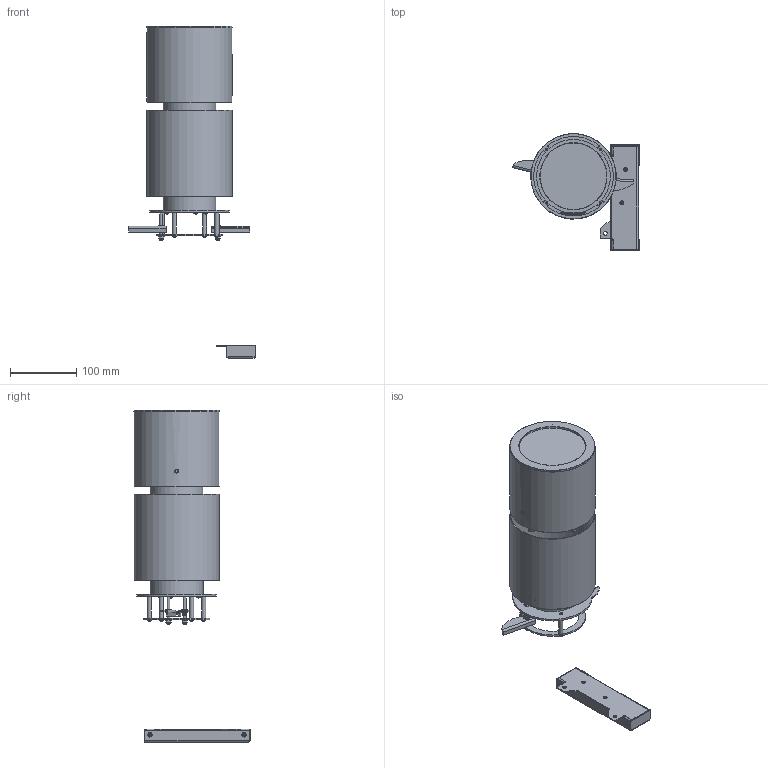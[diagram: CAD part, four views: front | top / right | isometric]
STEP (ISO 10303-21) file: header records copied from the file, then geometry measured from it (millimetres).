
FILE_DESCRIPTION(/* description */ ('Unknown'),/* implementation_level */ '2;1');
FILE_NAME(/* name */ 'Ambiane MP111 Surface Mount ',/* time_stamp */ '2024-02-21T09:14:22+01:00',/* author */ ('Unknown'),/* organization */ ('Unknown'),/* preprocessor_version */ 'ST-DEVELOPER v18.104',/* originating_system */ 'Solid Edge',/* authorisation */ 'Unknown');
FILE_SCHEMA (('AUTOMOTIVE_DESIGN {1 0 10303 214 3 1 1}'));
Length unit declared in the file: millimetre
Products named in the file (44): 99018360 Ambiane MP111 Surface Mount 60° RAL9011; 18010073 Šr.imbusový M4x8; 19430536 Front Part; 17442529 kryt - lisování; 18060209 Lisovací šroub M3x10; 11031098 kryt; 11018351 deska krytu; 12051729 trubka krytu; 14060984 Sklo D107 tl.3mm; 99016551-02 Ambaine XP Pendant Remote driver; 17442164-02 Nosník elektroniky; 11417557-02 Nosník elektroniky; 18040018 Matice zálisná M3; 18040044 Matice nýtovací M3 AVDEL zápustná Tl1,5; 13032897-02 PCB RB3729-V6.1.C.1 Ambiane XP Pendant Remote; 11417837 Kryt elektroniky_Remote; 18050064 Vìjíøovka pr 3 zápustná; 18010033 Šr.køíž.zápustný M3x6; 18550011 V骹薠ovka pr 3; 18010016 Šr.Køíž.pulkul. M3x6; 99018361 Ambiane MP SFM sestava; 12010400 Distance D6xL33 M3; 17442546 sfm deska - liosování ; 11018354 deska; 12451730 trubka sfm; 18010054 Šroub kø. pulkul. M3x10; 11431189 Kryt chladièe MP sfm; 11019204 Kryt chladièe; 17042872 držák krytu MP sfm - lisování; 11019222 Držák krytu MP sfm; 11418355 kruh; 18710363 Šroub záp, s vnitø, šestihr, M 4x45 A2 BLACK; 18540020 Matice samosvorná M4; 18010015 Šr.køíž.pulkul.M4x8; 17442531 rameno aretace ; 11018353 packa; 18040015 Matice zálisná M4 AVDEL; 17442536 Kryt reflektoru 60st -lisování; 11018366 Kryt reflektoru 60st; 18540096 Matice M4 nízká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
Assembly tree (92 placements, depth 5):
  99018360 Ambiane MP111 Surface Mount 60° RAL9011
    18010073 Šr.imbusový M4x8  x4
    19430536 Front Part
    17442529 kryt - lisování
      18060209 Lisovací šroub M3x10  x4
      11031098 kryt
        11018351 deska krytu
        12051729 trubka krytu
    14060984 Sklo D107 tl.3mm
    99016551-02 Ambaine XP Pendant Remote driver
      17442164-02 Nosník elektroniky
        11417557-02 Nosník elektroniky
        18040018 Matice zálisná M3  x4
        18040044 Matice nýtovací M3 AVDEL zápustná Tl1,5  x2
      13032897-02 PCB RB3729-V6.1.C.1 Ambiane XP Pendant Remote
      11417837 Kryt elektroniky_Remote
      18050064 Vìjíøovka pr 3 zápustná  x4
      18010033 Šr.køíž.zápustný M3x6  x4
      18550011 V骹薠ovka pr 3
      18010016 Šr.Køíž.pulkul. M3x6  x2
    99018361 Ambiane MP SFM sestava
      12010400 Distance D6xL33 M3  x7
      17442546 sfm deska - liosování 
        18060209 Lisovací šroub M3x10  x4
        11018354 deska
      12451730 trubka sfm
      18010054 Šroub kø. pulkul. M3x10  x7
      11431189 Kryt chladièe MP sfm
        11019204 Kryt chladièe
        17042872 držák krytu MP sfm - lisování
          18060209 Lisovací šroub M3x10  x3
          11019222 Držák krytu MP sfm
      11418355 kruh
      18710363 Šroub záp, s vnitø, šestihr, M 4x45 A2 BLACK  x2
      18540020 Matice samosvorná M4  x2
      18010015 Šr.køíž.pulkul.M4x8  x4
      17442531 rameno aretace   x2
        11018353 packa
        18040015 Matice zálisná M4 AVDEL
    17442536 Kryt reflektoru 60st -lisování
      11018366 Kryt reflektoru 60st
      18540096 Matice M4 nízká  x2
      18050003 Podložka pérová 4  x2
      18060306 Lisovací šroub GS4-A-12  x2
    17442530 nosník
      18060209 Lisovací šroub M3x10  x4
      11018360 nosník
Bounding box: 191.23 x 175.14 x 501.25 mm (x, y, z)
Volume: 289839.9 mm3; surface area: 395881.2 mm2
Topology: 82 solids, 82 shells, 2484 faces, 6028 edges, 3929 vertices
Faces by surface type: plane 1560, cylinder 514, cone 230, torus 119, bspline 40, sphere 21
Full cylindrical faces by diameter (mm): 0.97 x24, 1.4 x23, 2.459 x2, 2.5 x11, 3 x28, 3.05 x3, 3.1 x4, 3.15 x4, 3.2 x22, 3.242 x8, 3.3 x2, 3.7 x4, 4 x21, 4.22 x4, 4.3 x10, 4.5 x2, 4.8 x6, 5 x15, 5.5 x8, 5.6 x9, 5.9 x2, 6 x11, 6.1 x2, 6.3 x4, 6.55 x2, 7 x4, 7.1 x2, 8 x8, 8.8 x2, 9 x2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
Entity records: 58219 total; most frequent: CARTESIAN_POINT 11947, DIRECTION 8034, ORIENTED_EDGE 7792, EDGE_CURVE 3896, AXIS2_PLACEMENT_3D 2738, VERTEX_POINT 2671, LINE 2558, VECTOR 2558
